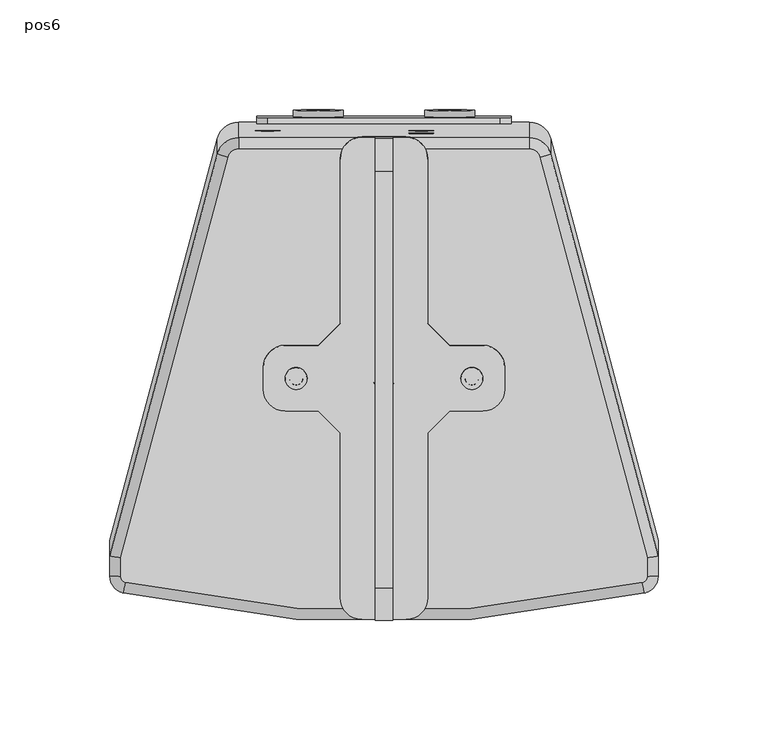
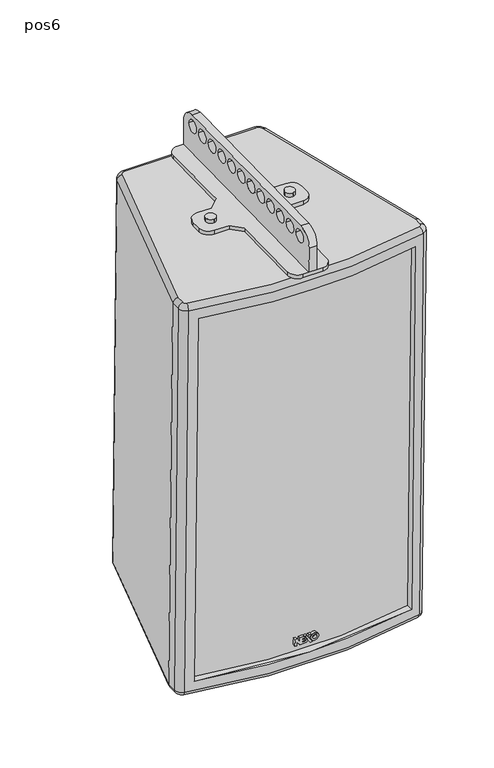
"""IFC4 building model written with IfcOpenShell, lengths in millimetres: proxy geometry, ePS8-BUMP-CVM : pos6."""

from ifc_helpers import new_model, si_unit, point, frame, frame_2d, origin, place, context, project, spatial, polyline, circle_curve, ellipse_curve, trimmed, segment, composite_curve, outline, extrude, source, transform, mapped, element, save
from ifc_brep_helpers import plane_surface, cylinder_surface, revolved_surface, advanced_brep


def pos6_5199c8cc(model_context):
    return source(origin(), model_context, "Body", "SolidModel", [
        extrude(outline(composite_curve([segment(trimmed(circle_curve(frame_2d((0.0, -5.0)), 5.0), [point((0.0, -10.0))], [point((0.0, 0.0))], False, "CARTESIAN"), True, "CONTINUOUS"), segment(trimmed(circle_curve(frame_2d((0.0, -5.0)), 5.0), [point((0.0, 0.0))], [point((0.0, -10.0))], False, "CARTESIAN"), True, "CONTINUOUS")], self_intersect=False)), frame((-35.0511607, 8.5308202, -85.8555115), z_axis=(0.0, -0.017452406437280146, 0.9998476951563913), x_axis=(0.0, -0.9998476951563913, -0.017452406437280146)), (0.0, 0.0, 1.0), 4.0),
        extrude(outline(composite_curve([segment(trimmed(circle_curve(frame_2d((0.0, 75.1023214)), 5.0), [point((0.0, 80.1023214))], [point((0.0, 70.1023214))], False, "CARTESIAN"), True, "CONTINUOUS"), segment(trimmed(circle_curve(frame_2d((0.0, 75.1023214)), 5.0), [point((0.0, 70.1023214))], [point((0.0, 80.1023214))], False, "CARTESIAN"), True, "CONTINUOUS")], self_intersect=False)), frame((-35.0511607, 8.5308202, -85.8555115), z_axis=(0.0, -0.017452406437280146, 0.9998476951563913), x_axis=(0.0, -0.9998476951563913, -0.017452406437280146)), (0.0, 0.0, 1.0), 4.0),
        extrude(outline(composite_curve([segment(trimmed(circle_curve(frame_2d((103.0625887, -58.2014928)), 15.0), [point((102.8008026, -43.2037774))], [point((118.0603041, -57.9397067))], False, "CARTESIAN"), True, "CONTINUOUS"), segment(polyline([(118.0603041, -57.9397067), (118.5140667, -83.9357468), (-101.4524262, -87.7752762), (-101.9061888, -61.7792361)]), True, "CONTINUOUS"), segment(trimmed(circle_curve(frame_2d((-86.9084734, -61.51745)), 15.0), [point((-101.9061888, -61.7792361))], [point((-87.1702595, -46.5197346))], False, "CARTESIAN"), True, "CONTINUOUS"), segment(polyline([(-87.1702595, -46.5197346), (102.8008026, -43.2037774)]), True, "CONTINUOUS")], self_intersect=False), holes=[composite_curve([segment(trimmed(circle_curve(frame_2d((0.0, -57.0)), 6.5), [point((-6.49901, -57.1134406))], [point((6.49901, -56.8865594))], True, "CARTESIAN"), True, "CONTINUOUS"), segment(trimmed(circle_curve(frame_2d((0.0, -57.0)), 6.5), [point((6.49901, -56.8865594))], [point((-6.49901, -57.1134406))], True, "CARTESIAN"), True, "CONTINUOUS")], self_intersect=False), composite_curve([segment(trimmed(circle_curve(frame_2d((-17.0755239, -57.2980544)), 6.5), [point((-23.5745339, -57.411495))], [point((-10.5765139, -57.1846137))], True, "CARTESIAN"), True, "CONTINUOUS"), segment(trimmed(circle_curve(frame_2d((-17.0755239, -57.2980544)), 6.5), [point((-10.5765139, -57.1846137))], [point((-23.5745339, -57.411495))], True, "CARTESIAN"), True, "CONTINUOUS")], self_intersect=False), composite_curve([segment(trimmed(circle_curve(frame_2d((-34.1510478, -57.5961088)), 6.5), [point((-40.6500579, -57.7095494))], [point((-27.6520378, -57.4826681))], True, "CARTESIAN"), True, "CONTINUOUS"), segment(trimmed(circle_curve(frame_2d((-34.1510478, -57.5961088)), 6.5), [point((-27.6520378, -57.4826681))], [point((-40.6500579, -57.7095494))], True, "CARTESIAN"), True, "CONTINUOUS")], self_intersect=False), composite_curve([segment(trimmed(circle_curve(frame_2d((-51.2265718, -57.8941631)), 6.5), [point((-57.7255818, -58.0076038))], [point((-44.7275617, -57.7807225))], True, "CARTESIAN"), True, "CONTINUOUS"), segment(trimmed(circle_curve(frame_2d((-51.2265718, -57.8941631)), 6.5), [point((-44.7275617, -57.7807225))], [point((-57.7255818, -58.0076038))], True, "CARTESIAN"), True, "CONTINUOUS")], self_intersect=False), composite_curve([segment(trimmed(circle_curve(frame_2d((-68.3020957, -58.1922175)), 6.5), [point((-74.8011057, -58.3056582))], [point((-61.8030857, -58.0787769))], True, "CARTESIAN"), True, "CONTINUOUS"), segment(trimmed(circle_curve(frame_2d((-68.3020957, -58.1922175)), 6.5), [point((-61.8030857, -58.0787769))], [point((-74.8011057, -58.3056582))], True, "CARTESIAN"), True, "CONTINUOUS")], self_intersect=False), composite_curve([segment(trimmed(circle_curve(frame_2d((-85.3776196, -58.4902719)), 6.5), [point((-91.8766296, -58.6037125))], [point((-78.8786096, -58.3768313))], True, "CARTESIAN"), True, "CONTINUOUS"), segment(trimmed(circle_curve(frame_2d((-85.3776196, -58.4902719)), 6.5), [point((-78.8786096, -58.3768313))], [point((-91.8766296, -58.6037125))], True, "CARTESIAN"), True, "CONTINUOUS")], self_intersect=False), composite_curve([segment(trimmed(circle_curve(frame_2d((17.106153, -56.701411)), 6.5), [point((23.605163, -56.5879703))], [point((10.607143, -56.8148516))], True, "CARTESIAN"), True, "CONTINUOUS"), segment(trimmed(circle_curve(frame_2d((17.106153, -56.701411)), 6.5), [point((10.607143, -56.8148516))], [point((23.605163, -56.5879703))], True, "CARTESIAN"), True, "CONTINUOUS")], self_intersect=False), composite_curve([segment(trimmed(circle_curve(frame_2d((34.1816769, -56.4033566)), 6.5), [point((40.6806869, -56.289916))], [point((27.6826669, -56.5167973))], True, "CARTESIAN"), True, "CONTINUOUS"), segment(trimmed(circle_curve(frame_2d((34.1816769, -56.4033566)), 6.5), [point((27.6826669, -56.5167973))], [point((40.6806869, -56.289916))], True, "CARTESIAN"), True, "CONTINUOUS")], self_intersect=False), composite_curve([segment(trimmed(circle_curve(frame_2d((51.2572008, -56.1053022)), 6.5), [point((57.7562108, -55.9918616))], [point((44.7581908, -56.2187429))], True, "CARTESIAN"), True, "CONTINUOUS"), segment(trimmed(circle_curve(frame_2d((51.2572008, -56.1053022)), 6.5), [point((44.7581908, -56.2187429))], [point((57.7562108, -55.9918616))], True, "CARTESIAN"), True, "CONTINUOUS")], self_intersect=False), composite_curve([segment(trimmed(circle_curve(frame_2d((68.3327247, -55.8072479)), 6.5), [point((74.8317348, -55.6938072))], [point((61.8337147, -55.9206885))], True, "CARTESIAN"), True, "CONTINUOUS"), segment(trimmed(circle_curve(frame_2d((68.3327247, -55.8072479)), 6.5), [point((61.8337147, -55.9206885))], [point((74.8317348, -55.6938072))], True, "CARTESIAN"), True, "CONTINUOUS")], self_intersect=False), composite_curve([segment(trimmed(circle_curve(frame_2d((85.4082487, -55.5091935)), 6.5), [point((91.9072587, -55.3957528))], [point((78.9092386, -55.6226341))], True, "CARTESIAN"), True, "CONTINUOUS"), segment(trimmed(circle_curve(frame_2d((85.4082487, -55.5091935)), 6.5), [point((78.9092386, -55.6226341))], [point((91.9072587, -55.3957528))], True, "CARTESIAN"), True, "CONTINUOUS")], self_intersect=False), composite_curve([segment(trimmed(circle_curve(frame_2d((102.4837726, -55.2111391)), 6.5), [point((108.9827826, -55.0976985))], [point((95.9847626, -55.3245797))], True, "CARTESIAN"), True, "CONTINUOUS"), segment(trimmed(circle_curve(frame_2d((102.4837726, -55.2111391)), 6.5), [point((95.9847626, -55.3245797))], [point((108.9827826, -55.0976985))], True, "CARTESIAN"), True, "CONTINUOUS")], self_intersect=False)]), frame((-4.0, 0.0, 0.0), z_axis=(1.0, 0.0, 0.0), x_axis=(0.0, 1.0, 0.0)), (0.0, 0.0, 1.0), 8.0),
        extrude(outline(composite_curve([segment(polyline([(1.6568542, 0.0), (54.6898629, 53.0330086)]), True, "CONTINUOUS"), segment(trimmed(circle_curve(frame_2d((61.7609307, 45.9619408)), 10.0), [point((54.6898629, 53.0330086))], [point((68.8319985, 53.0330086))], False, "CARTESIAN"), True, "CONTINUOUS"), segment(polyline([(68.8319985, 53.0330086), (82.9741341, 38.8908729)]), True, "CONTINUOUS"), segment(trimmed(circle_curve(frame_2d((75.9030663, 31.8198052)), 10.0), [point((82.9741341, 38.8908729))], [point((82.9741341, 24.7487373))], False, "CARTESIAN"), True, "CONTINUOUS"), segment(polyline([(82.9741341, 24.7487373), (29.9411255, -28.2842713), (29.9411255, -42.4264069), (40.5477272, -53.0330086)]), True, "CONTINUOUS"), segment(trimmed(circle_curve(frame_2d((33.4766594, -60.1040764)), 10.0), [point((40.5477272, -53.0330086))], [point((40.5477272, -67.1751443))], False, "CARTESIAN"), True, "CONTINUOUS"), segment(polyline([(40.5477272, -67.1751443), (33.4766594, -74.246212)]), True, "CONTINUOUS"), segment(trimmed(circle_curve(frame_2d((26.4055916, -67.1751442)), 10.0), [point((33.4766594, -74.246212))], [point((19.3345238, -74.2462121))], False, "CARTESIAN"), True, "CONTINUOUS"), segment(polyline([(19.3345238, -74.2462121), (8.7279221, -63.6396103), (-5.4142135, -63.6396103), (-58.4472222, -116.6726189)]), True, "CONTINUOUS"), segment(trimmed(circle_curve(frame_2d((-65.51829, -109.6015511)), 10.0), [point((-58.4472222, -116.6726189))], [point((-72.5893578, -116.6726189))], False, "CARTESIAN"), True, "CONTINUOUS"), segment(polyline([(-72.5893578, -116.6726189), (-86.7314934, -102.5304833)]), True, "CONTINUOUS"), segment(trimmed(circle_curve(frame_2d((-79.6604256, -95.4594155)), 10.0), [point((-86.7314934, -102.5304833))], [point((-86.7314934, -88.3883477))], False, "CARTESIAN"), True, "CONTINUOUS"), segment(polyline([(-86.7314934, -88.3883477), (-33.6984848, -35.3553391), (-33.6984848, -21.2132035), (-44.3050865, -10.6066018)]), True, "CONTINUOUS"), segment(trimmed(circle_curve(frame_2d((-37.2340187, -3.5355339)), 10.0), [point((-44.3050865, -10.6066018))], [point((-44.3050865, 3.5355339))], False, "CARTESIAN"), True, "CONTINUOUS"), segment(polyline([(-44.3050865, 3.5355339), (-37.2340187, 10.6066017)]), True, "CONTINUOUS"), segment(trimmed(circle_curve(frame_2d((-30.1629509, 3.5355339)), 10.0), [point((-37.2340187, 10.6066017))], [point((-23.0918831, 10.6066017))], False, "CARTESIAN"), True, "CONTINUOUS"), segment(polyline([(-23.0918831, 10.6066017), (-12.4852813, 0.0), (1.6568542, 0.0)]), True, "CONTINUOUS")], self_intersect=False), holes=[composite_curve([segment(trimmed(circle_curve(frame_2d((-30.1702094, -3.5282754)), 3.0), [point((-32.2915297, -1.406955))], [point((-28.048889, -5.6495957))], True, "CARTESIAN"), True, "CONTINUOUS"), segment(trimmed(circle_curve(frame_2d((-30.1702094, -3.5282754)), 3.0), [point((-28.048889, -5.6495957))], [point((-32.2915297, -1.406955))], True, "CARTESIAN"), True, "CONTINUOUS")], self_intersect=False), composite_curve([segment(trimmed(circle_curve(frame_2d((26.4128502, -60.1113349)), 3.0), [point((28.5341705, -62.2326553))], [point((24.2915298, -57.9900146))], True, "CARTESIAN"), True, "CONTINUOUS"), segment(trimmed(circle_curve(frame_2d((26.4128502, -60.1113349)), 3.0), [point((24.2915298, -57.9900146))], [point((28.5341705, -62.2326553))], True, "CARTESIAN"), True, "CONTINUOUS")], self_intersect=False)]), frame((-21.1715729, 32.4254278, -89.4390389), z_axis=(0.0, -0.017452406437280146, 0.9998476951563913), x_axis=(0.7071067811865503, 0.7069990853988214, 0.012340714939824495)), (0.0, 0.0, 1.0), 4.0),
        extrude(outline(composite_curve([segment(trimmed(circle_curve(frame_2d((3.670838, -20.0113735)), 3.9406238), [point((3.670838, -16.0707497))], [point((3.670838, -23.9519974))], False, "CARTESIAN"), True, "CONTINUOUS"), segment(trimmed(circle_curve(frame_2d((3.670838, -20.0113735)), 3.9406238), [point((3.670838, -23.9519974))], [point((3.670838, -16.0707497))], False, "CARTESIAN"), True, "CONTINUOUS")], self_intersect=False), holes=[composite_curve([segment(trimmed(circle_curve(frame_2d((3.670838, -20.0113735)), 2.0681078), [point((3.670838, -17.9432657))], [point((3.670838, -22.0794813))], True, "CARTESIAN"), True, "CONTINUOUS"), segment(trimmed(circle_curve(frame_2d((3.670838, -20.0113735)), 2.0681078), [point((3.670838, -22.0794813))], [point((3.670838, -17.9432657))], True, "CARTESIAN"), True, "CONTINUOUS")], self_intersect=False)]), frame((-11.9363528, -91.0145971, -485.2126957), z_axis=(0.0, 0.9998476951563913, 0.017452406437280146), x_axis=(0.0, 0.017452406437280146, -0.9998476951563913)), (0.0, 0.0, 1.0), 3.0),
        extrude(outline(polyline([(0.0, 0.0), (7.279767, 0.0), (7.279767, -1.8923673), (3.1144368, -1.8923673), (7.279767, -4.6674642), (7.279767, -11.5183739), (5.404796, -12.8369462), (3.8052626, -11.7735691), (5.6771027, -10.4040265), (5.6771027, -7.3703972), (4.4228153, -7.3703972), (4.4228153, -9.6535101), (2.820085, -9.6535101), (2.820085, -7.3703972), (1.6035818, -7.3703972), (1.6035818, -9.7774719), (0.8035818, -9.7774719), (0.0008515, -9.2438132), (0.0008515, -4.9754371), (4.4509076, -4.9657455), (0.0, -2.0264794), (0.0, 0.0)])), frame((-11.9363528, -91.0145971, -485.2126957), z_axis=(0.0, 0.9998476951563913, 0.017452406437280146), x_axis=(0.0, 0.017452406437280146, -0.9998476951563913)), (0.0, 0.0, 1.0), 3.0),
        extrude(outline(polyline([(0.0, -9.8851283), (8.2409469, -15.3637475), (8.2409469, -17.5569502), (0.0, -12.078331), (0.0, -9.8851283)])), frame((-11.9363528, -91.0145971, -485.2126957), z_axis=(0.0, 0.9998476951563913, 0.017452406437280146), x_axis=(0.0, 0.017452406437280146, -0.9998476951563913)), (0.0, 0.0, 1.0), 3.0),
        extrude(outline(polyline([(0.0, -16.6257623), (0.0, -14.2989718), (1.267957, -13.5511775), (2.8988509, -14.6354032), (0.0, -16.6257623)])), frame((-11.9363528, -91.0145971, -485.2126957), z_axis=(0.0, 0.9998476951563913, 0.017452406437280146), x_axis=(0.0, 0.017452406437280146, -0.9998476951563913)), (0.0, 0.0, 1.0), 3.0),
        extrude(outline(composite_curve([segment(trimmed(circle_curve(frame_2d((0.0, -55.0)), 11.4515227), [point((0.0, -43.5484773))], [point((0.0, -66.4515227))], False, "CARTESIAN"), True, "CONTINUOUS"), segment(trimmed(circle_curve(frame_2d((0.0, -55.0)), 11.4515227), [point((0.0, -66.4515227))], [point((0.0, -43.5484773))], False, "CARTESIAN"), True, "CONTINUOUS")], self_intersect=False), holes=[composite_curve([segment(trimmed(circle_curve(frame_2d((0.0, -55.0)), 5.0), [point((0.0, -50.0))], [point((0.0, -60.0))], True, "CARTESIAN"), True, "CONTINUOUS"), segment(trimmed(circle_curve(frame_2d((0.0, -55.0)), 5.0), [point((0.0, -60.0))], [point((0.0, -50.0))], True, "CARTESIAN"), True, "CONTINUOUS")], self_intersect=False)]), frame((25.0, 127.8113982, -473.332793), z_axis=(0.0, 0.9998476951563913, 0.017452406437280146), x_axis=(0.0, -0.017452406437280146, 0.9998476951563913)), (0.0, 0.0, 1.0), 3.0),
        extrude(outline(composite_curve([segment(trimmed(circle_curve(frame_2d((0.0, 5.0)), 11.4515227), [point((0.0, 16.4515227))], [point((0.0, -6.4515227))], False, "CARTESIAN"), True, "CONTINUOUS"), segment(trimmed(circle_curve(frame_2d((0.0, 5.0)), 11.4515227), [point((0.0, -6.4515227))], [point((0.0, 16.4515227))], False, "CARTESIAN"), True, "CONTINUOUS")], self_intersect=False), holes=[composite_curve([segment(trimmed(circle_curve(frame_2d((0.0, 5.0)), 5.0), [point((0.0, 10.0))], [point((0.0, 0.0))], True, "CARTESIAN"), True, "CONTINUOUS"), segment(trimmed(circle_curve(frame_2d((0.0, 5.0)), 5.0), [point((0.0, 0.0))], [point((0.0, 10.0))], True, "CARTESIAN"), True, "CONTINUOUS")], self_intersect=False)]), frame((25.0, 127.8113982, -473.332793), z_axis=(0.0, 0.9998476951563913, 0.017452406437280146), x_axis=(0.0, -0.017452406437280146, 0.9998476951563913)), (0.0, 0.0, 1.0), 3.0),
        extrude(outline(composite_curve([segment(polyline([(-5.0, -5.0), (-5.0, 101.0)]), True, "CONTINUOUS"), segment(trimmed(circle_curve(frame_2d((0.0, 101.0)), 5.0), [point((-5.0, 101.0))], [point((0.0, 106.0))], False, "CARTESIAN"), True, "CONTINUOUS"), segment(polyline([(0.0, 106.0), (28.0, 106.0)]), True, "CONTINUOUS"), segment(trimmed(circle_curve(frame_2d((28.0, 101.0)), 5.0), [point((28.0, 106.0))], [point((33.0000001, 101.0))], False, "CARTESIAN"), True, "CONTINUOUS"), segment(polyline([(33.0000001, 101.0), (33.0000001, -5.0)]), True, "CONTINUOUS"), segment(trimmed(circle_curve(frame_2d((28.0, -5.0)), 5.0), [point((33.0000001, -5.0))], [point((28.0, -10.0))], False, "CARTESIAN"), True, "CONTINUOUS"), segment(polyline([(28.0, -10.0), (0.0, -10.0)]), True, "CONTINUOUS"), segment(trimmed(circle_curve(frame_2d((0.0, -5.0)), 5.0), [point((0.0, -10.0))], [point((-5.0, -5.0))], False, "CARTESIAN"), True, "CONTINUOUS")], self_intersect=False)), frame((48.0, 124.5675215, -459.3872825), z_axis=(0.0, 0.9998476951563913, 0.017452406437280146), x_axis=(0.0, 0.017452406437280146, -0.9998476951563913)), (0.0, 0.0, 1.0), 3.0),
        advanced_brep(
        [(110.0, -91.1865126, -106.5989782), (110.0, -84.3371543, -106.4794223), (110.0, -77.4783586, -499.4195664), (110.0, -84.3277168, -499.5391224), (-71.0680005, 109.3793737, -88.0958028), (-120.0, -73.2095211, -91.2829038), (-120.0, -81.715088, -91.431369), (-117.6705435, -84.6387445, -91.4824016), (117.6705435, -84.6387445, -91.4824016), (120.0, -81.715088, -91.431369), (120.0, -73.2095211, -91.2829038), (71.0680005, 109.3793737, -88.0958028), (66.2383714, 113.084714, -88.0311258), (-66.2383714, 113.084714, -88.0311258), (0.0, 3.6013914, -89.9421643), (0.0, 13.5998683, -89.7676402), (-40.0, 3.6013914, -89.9421643), (-40.0, 13.5998683, -89.7676402), (40.0, 3.6013914, -89.9421643), (40.0, 13.5998683, -89.7676402), (-120.0, -65.8271532, -514.2184788), (-71.0680005, 116.7617416, -511.0313778), (-66.2383714, 120.4670819, -510.9667009), (66.2383714, 120.4670819, -510.9667009), (71.0680005, 116.7617416, -511.0313778), (120.0, -65.8271532, -514.2184788), (120.0, -74.3327201, -514.366944), (117.6705435, -77.2563765, -514.4179767), (-117.6705435, -77.2563765, -514.4179767), (-120.0, -74.3327201, -514.366944), (0.0, 20.9822363, -512.7032153), (0.0, 10.9837593, -512.8777394), (-40.0, 20.9822363, -512.7032153), (-40.0, 10.9837593, -512.8777394), (40.0, 20.9822363, -512.7032153), (40.0, 10.9837593, -512.8777394), (-66.2383714, 118.1712145, -92.9431022), (66.2383714, 118.1712145, -92.9431022), (66.2383714, 125.3790584, -505.8802003), (-66.2383714, 125.3790584, -505.8802003), (-47.3432823, 121.4260132, -279.4103962), (-58.6566026, 121.4260132, -279.4103962), (22.6567177, 121.4260132, -279.4103962), (11.3433974, 121.4260132, -279.4103962), (22.6567177, 120.2043448, -209.4210575), (11.3433974, 120.2043448, -209.4210575), (118.788116, -89.4242432, -96.5666944), (-118.788116, -89.4242432, -96.5666944), (-118.788116, -82.2163993, -509.5037924), (118.788116, -82.2163993, -509.5037925), (-110.0, -91.1865126, -106.5989782), (-110.0, -84.3277168, -499.5391224), (125.0, -81.627826, -96.4306075), (125.0, -74.4199821, -509.3677056), (125.0, -72.4640969, -96.270654), (125.0, -65.256253, -509.2077521), (75.8976296, 110.7605338, -93.0724562), (75.8976296, 117.9683777, -506.0095543), (-75.8976296, 110.7605338, -93.0724562), (-75.8976296, 117.9683777, -506.0095543), (-125.0, -72.4640969, -96.270654), (-125.0, -65.256253, -509.2077521), (-125.0, -81.627826, -96.4306075), (-125.0, -74.4199821, -509.3677056), (0.0, 13.6522256, -92.7671833), (0.0, 3.6537486, -92.9417074), (-40.0, 13.6522256, -92.7671833), (-40.0, 3.6537486, -92.9417074), (40.0, 13.6522256, -92.7671833), (40.0, 3.6537486, -92.9417074), (-110.0, -84.4468053, -106.4813362), (-110.0, -77.5880096, -499.4214804), (0.0, 20.929879, -509.7036722), (0.0, 10.9314021, -509.8781963), (-40.0, 20.929879, -509.7036722), (-40.0, 10.9314021, -509.8781963), (40.0, 20.929879, -509.7036722), (40.0, 10.9314021, -509.8781963), (-47.3432823, 118.4264701, -279.4627534), (-58.6566026, 118.4264701, -279.4627534), (22.6567177, 118.4264701, -279.4627534), (11.3433974, 118.4264701, -279.4627534), (22.6567177, 117.2048017, -209.4734147), (11.3433974, 117.2048017, -209.4734147)],
        [
            (0, 1),
            (1, 2),
            (2, 3),
            (3, 0),
            (4, 5),
            (5, 6),
            (6, 7, circle_curve(frame((-117.0, -81.715088, -91.431369), z_axis=(0.0, -0.017452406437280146, 0.9998476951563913), x_axis=(-0.22351449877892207, -0.9745521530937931, -0.017010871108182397)), 3.0)),
            (7, 8, circle_curve(frame((0.0, 428.42006, -82.5269269), z_axis=(0.0, -0.017452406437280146, 0.9998476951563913), x_axis=(0.22351449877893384, -0.9745521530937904, -0.0170108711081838)), 526.4559755)),
            (8, 9, circle_curve(frame((117.0, -81.715088, -91.431369), z_axis=(0.0, -0.017452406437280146, 0.9998476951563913), x_axis=(1.0, 0.0, 0.0)), 3.0)),
            (9, 10),
            (10, 11),
            (11, 12, circle_curve(frame((66.2383714, 108.0854755, -88.1183878), z_axis=(0.0, -0.017452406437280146, 0.9998476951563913), x_axis=(0.0, 0.9998476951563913, 0.017452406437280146)), 5.0)),
            (12, 13),
            (13, 4, circle_curve(frame((-66.2383714, 108.0854755, -88.1183878), z_axis=(0.0, -0.017452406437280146, 0.9998476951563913), x_axis=(-0.9659258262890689, 0.25877962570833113, 0.00451701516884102)), 5.0)),
            (14, 15, circle_curve(frame((0.0, 8.6006299, -89.8549023), z_axis=(0.0, 0.017452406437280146, -0.9998476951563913), x_axis=(0.0, -0.9998476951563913, -0.017452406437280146)), 5.0)),
            (15, 14, circle_curve(frame((0.0, 8.6006299, -89.8549023), z_axis=(0.0, 0.017452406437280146, -0.9998476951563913), x_axis=(0.0, -0.9998476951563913, -0.017452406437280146)), 5.0)),
            (16, 17, circle_curve(frame((-40.0, 8.6006299, -89.8549023), z_axis=(0.0, 0.017452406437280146, -0.9998476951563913), x_axis=(0.0, -0.9998476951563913, -0.017452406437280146)), 5.0)),
            (17, 16, circle_curve(frame((-40.0, 8.6006299, -89.8549023), z_axis=(0.0, 0.017452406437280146, -0.9998476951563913), x_axis=(0.0, -0.9998476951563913, -0.017452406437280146)), 5.0)),
            (18, 19, circle_curve(frame((40.0, 8.6006299, -89.8549023), z_axis=(0.0, 0.017452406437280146, -0.9998476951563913), x_axis=(0.0, -0.9998476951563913, -0.017452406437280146)), 5.0)),
            (19, 18, circle_curve(frame((40.0, 8.6006299, -89.8549023), z_axis=(0.0, 0.017452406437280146, -0.9998476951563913), x_axis=(0.0, -0.9998476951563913, -0.017452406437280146)), 5.0)),
            (20, 21),
            (21, 22, circle_curve(frame((-66.2383714, 115.4678435, -511.0539629), z_axis=(0.0, 0.017452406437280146, -0.9998476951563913), x_axis=(-0.9659258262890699, 0.2587796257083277, 0.00451701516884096)), 5.0)),
            (22, 23),
            (23, 24, circle_curve(frame((66.2383714, 115.4678435, -511.0539629), z_axis=(0.0, 0.017452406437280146, -0.9998476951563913), x_axis=(0.0, 0.9998476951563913, 0.017452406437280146)), 5.0)),
            (24, 25),
            (25, 26),
            (26, 27, circle_curve(frame((117.0, -74.3327201, -514.366944), z_axis=(0.0, 0.017452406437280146, -0.9998476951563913), x_axis=(1.0, 0.0, 0.0)), 3.0)),
            (27, 28, circle_curve(frame((0.0, 435.8024279, -505.4625019), z_axis=(0.0, 0.017452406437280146, -0.9998476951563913), x_axis=(0.22351449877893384, -0.9745521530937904, -0.0170108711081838)), 526.4559755)),
            (28, 29, circle_curve(frame((-117.0, -74.3327201, -514.366944), z_axis=(0.0, 0.017452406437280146, -0.9998476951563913), x_axis=(-0.22351449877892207, -0.9745521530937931, -0.017010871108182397)), 3.0)),
            (29, 20),
            (30, 31, circle_curve(frame((0.0, 15.9829978, -512.7904773), z_axis=(0.0, -0.017452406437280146, 0.9998476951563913), x_axis=(0.0, -0.9998476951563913, -0.017452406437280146)), 5.0)),
            (31, 30, circle_curve(frame((0.0, 15.9829978, -512.7904773), z_axis=(0.0, -0.017452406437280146, 0.9998476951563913), x_axis=(0.0, -0.9998476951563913, -0.017452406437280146)), 5.0)),
            (32, 33, circle_curve(frame((-40.0, 15.9829978, -512.7904773), z_axis=(0.0, -0.017452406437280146, 0.9998476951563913), x_axis=(0.0, -0.9998476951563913, -0.017452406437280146)), 5.0)),
            (33, 32, circle_curve(frame((-40.0, 15.9829978, -512.7904773), z_axis=(0.0, -0.017452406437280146, 0.9998476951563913), x_axis=(0.0, -0.9998476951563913, -0.017452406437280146)), 5.0)),
            (34, 35, circle_curve(frame((40.0, 15.9829978, -512.7904773), z_axis=(0.0, -0.017452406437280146, 0.9998476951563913), x_axis=(0.0, -0.9998476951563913, -0.017452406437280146)), 5.0)),
            (35, 34, circle_curve(frame((40.0, 15.9829978, -512.7904773), z_axis=(0.0, -0.017452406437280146, 0.9998476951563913), x_axis=(0.0, -0.9998476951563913, -0.017452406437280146)), 5.0)),
            (36, 37),
            (37, 38),
            (38, 39),
            (39, 36),
            (40, 41, circle_curve(frame((-52.9999424, 121.4260132, -279.4103962), z_axis=(0.0, -0.9998476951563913, -0.017452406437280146), x_axis=(-1.0, 0.0, 0.0)), 5.6566602)),
            (41, 40, circle_curve(frame((-52.9999424, 121.4260132, -279.4103962), z_axis=(0.0, -0.9998476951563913, -0.017452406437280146), x_axis=(-1.0, 0.0, 0.0)), 5.6566602)),
            (42, 43, circle_curve(frame((17.0000576, 121.4260132, -279.4103962), z_axis=(0.0, -0.9998476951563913, -0.017452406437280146), x_axis=(-1.0, 0.0, 0.0)), 5.6566602)),
            (43, 42, circle_curve(frame((17.0000576, 121.4260132, -279.4103962), z_axis=(0.0, -0.9998476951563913, -0.017452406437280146), x_axis=(-1.0, 0.0, 0.0)), 5.6566602)),
            (44, 45, circle_curve(frame((17.0000576, 120.2043448, -209.4210575), z_axis=(0.0, -0.9998476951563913, -0.017452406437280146), x_axis=(-1.0, 0.0, 0.0)), 5.6566602)),
            (45, 44, circle_curve(frame((17.0000576, 120.2043448, -209.4210575), z_axis=(0.0, -0.9998476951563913, -0.017452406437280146), x_axis=(-1.0, 0.0, 0.0)), 5.6566602)),
            (46, 47, circle_curve(frame((0.0, 428.507322, -87.5261653), z_axis=(0.0, 0.017452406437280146, -0.9998476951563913), x_axis=(1.0, 0.0, 0.0)), 531.4559755)),
            (47, 48),
            (48, 49, circle_curve(frame((0.0, 435.7151659, -500.4632634), z_axis=(0.0, -0.017452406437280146, 0.9998476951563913), x_axis=(1.0, 0.0, 0.0)), 531.4559755)),
            (49, 46),
            (50, 0, circle_curve(frame((0.0, 428.6818461, -97.5246423), z_axis=(0.0, -0.017452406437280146, 0.9998476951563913), x_axis=(1.0, 0.0, 0.0)), 531.4559755)),
            (3, 51, circle_curve(frame((0.0, 435.5406418, -490.4647865), z_axis=(0.0, 0.017452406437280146, -0.9998476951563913), x_axis=(1.0, 0.0, 0.0)), 531.4559755)),
            (51, 50),
            (52, 46, circle_curve(frame((117.0, -81.627826, -96.4306075), z_axis=(0.0, 0.017452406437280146, -0.9998476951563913), x_axis=(1.0, 0.0, 0.0)), 8.0)),
            (49, 53, circle_curve(frame((117.0, -74.4199821, -509.3677056), z_axis=(0.0, -0.017452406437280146, 0.9998476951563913), x_axis=(1.0, 0.0, 0.0)), 8.0)),
            (53, 52),
            (54, 52),
            (53, 55),
            (55, 54),
            (56, 54),
            (55, 57),
            (57, 56),
            (37, 56, circle_curve(frame((66.2383714, 108.1727376, -93.1176263), z_axis=(0.0, 0.017452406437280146, -0.9998476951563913), x_axis=(1.0, 0.0, 0.0)), 10.0)),
            (57, 38, circle_curve(frame((66.2383714, 115.3805814, -506.0547244), z_axis=(0.0, -0.017452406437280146, 0.9998476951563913), x_axis=(1.0, 0.0, 0.0)), 10.0)),
            (58, 36, circle_curve(frame((-66.2383714, 108.1727376, -93.1176263), z_axis=(0.0, 0.017452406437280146, -0.9998476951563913), x_axis=(1.0, 0.0, 0.0)), 10.0)),
            (39, 59, circle_curve(frame((-66.2383714, 115.3805814, -506.0547244), z_axis=(0.0, -0.017452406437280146, 0.9998476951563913), x_axis=(1.0, 0.0, 0.0)), 10.0)),
            (59, 58),
            (60, 58),
            (59, 61),
            (61, 60),
            (62, 60),
            (61, 63),
            (63, 62),
            (47, 62, circle_curve(frame((-117.0, -81.627826, -96.4306075), z_axis=(0.0, 0.017452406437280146, -0.9998476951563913), x_axis=(1.0, 0.0, 0.0)), 8.0)),
            (63, 48, circle_curve(frame((-117.0, -74.4199821, -509.3677056), z_axis=(0.0, -0.017452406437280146, 0.9998476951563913), x_axis=(1.0, 0.0, 0.0)), 8.0)),
            (64, 65, circle_curve(frame((0.0, 8.6529871, -92.8544454), z_axis=(0.0, -0.017452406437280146, 0.9998476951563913), x_axis=(0.0, -0.9998476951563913, -0.017452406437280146)), 5.0)),
            (65, 64, circle_curve(frame((0.0, 8.6529871, -92.8544454), z_axis=(0.0, -0.017452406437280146, 0.9998476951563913), x_axis=(0.0, -0.9998476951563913, -0.017452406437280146)), 5.0)),
            (66, 67, circle_curve(frame((-40.0, 8.6529871, -92.8544454), z_axis=(0.0, -0.017452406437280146, 0.9998476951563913), x_axis=(0.0, -0.9998476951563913, -0.017452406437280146)), 5.0)),
            (67, 66, circle_curve(frame((-40.0, 8.6529871, -92.8544454), z_axis=(0.0, -0.017452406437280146, 0.9998476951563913), x_axis=(0.0, -0.9998476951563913, -0.017452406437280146)), 5.0)),
            (68, 69, circle_curve(frame((40.0, 8.6529871, -92.8544454), z_axis=(0.0, -0.017452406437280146, 0.9998476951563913), x_axis=(0.0, -0.9998476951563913, -0.017452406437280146)), 5.0)),
            (69, 68, circle_curve(frame((40.0, 8.6529871, -92.8544454), z_axis=(0.0, -0.017452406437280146, 0.9998476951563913), x_axis=(0.0, -0.9998476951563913, -0.017452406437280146)), 5.0)),
            (64, 15),
            (14, 65),
            (66, 17),
            (16, 67),
            (68, 19),
            (18, 69),
            (50, 70),
            (70, 1, circle_curve(frame((-0.2540909, 425.2521414, -97.584508), z_axis=(0.0, -0.017452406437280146, 0.9998476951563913), x_axis=(1.0, 0.0, 0.0)), 521.4559755)),
            (2, 71, circle_curve(frame((-0.2540909, 432.1109371, -490.5246522), z_axis=(0.0, 0.017452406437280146, -0.9998476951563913), x_axis=(1.0, 0.0, 0.0)), 521.4559755)),
            (71, 51),
            (70, 71),
            (4, 58, circle_curve(frame((-71.0680005, 109.4666357, -93.0950412), z_axis=(-0.25881904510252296, -0.9657787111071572, -0.016857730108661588), x_axis=(-0.9659258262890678, 0.2587796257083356, 0.004517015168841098)), 5.0)),
            (60, 5, ellipse_curve(frame((-120.0, -73.1222591, -96.2821422), z_axis=(0.13052619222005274, 0.9912938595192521, 0.017303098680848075), x_axis=(0.9914448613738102, -0.13050631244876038, -0.002277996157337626)), 5.0431448, 5.0)),
            (13, 36, circle_curve(frame((-66.2383714, 113.171976, -93.0303643), z_axis=(-1.0, 0.0, 0.0), x_axis=(0.0, 0.9998476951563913, 0.017452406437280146)), 5.0)),
            (12, 37, circle_curve(frame((66.2383714, 113.171976, -93.0303643), z_axis=(-1.0, 0.0, 0.0), x_axis=(0.0, 0.9998476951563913, 0.017452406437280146)), 5.0)),
            (11, 56, circle_curve(frame((71.0680005, 109.4666357, -93.0950412), z_axis=(-0.2588190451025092, 0.9657787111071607, 0.016857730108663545), x_axis=(0.9659258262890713, 0.25877962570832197, 0.004517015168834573)), 5.0)),
            (10, 54, ellipse_curve(frame((120.0, -73.1222591, -96.2821422), z_axis=(-0.13052619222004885, 0.9912938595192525, 0.01730309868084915), x_axis=(0.9914448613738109, 0.13050631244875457, 0.0022779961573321)), 5.0431448, 5.0)),
            (62, 6, circle_curve(frame((-120.0, -81.627826, -96.4306075), z_axis=(0.0, 0.9998476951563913, 0.017452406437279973), x_axis=(-1.0, 0.0, 0.0)), 5.0)),
            (9, 52, circle_curve(frame((120.0, -81.627826, -96.4306075), z_axis=(0.0, 0.9998476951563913, 0.01745240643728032), x_axis=(1.0, 0.0, 0.0)), 5.0)),
            (8, 46, circle_curve(frame((117.6705435, -84.5514824, -96.4816401), z_axis=(0.974700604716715, 0.2234804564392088, 0.003900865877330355), x_axis=(0.22351449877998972, -0.9745521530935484, -0.01701087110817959)), 5.0)),
            (7, 47, circle_curve(frame((-117.6705435, -84.5514824, -96.4816401), z_axis=(0.9747006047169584, -0.2234804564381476, -0.0039008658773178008), x_axis=(-0.22351449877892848, -0.9745521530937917, -0.01701087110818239)), 5.0)),
            (59, 21, circle_curve(frame((-71.0680005, 116.6744795, -506.0321393), z_axis=(-0.258819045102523, -0.9657787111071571, -0.016857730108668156), x_axis=(-0.9659258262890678, 0.2587796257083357, 0.004517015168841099)), 5.0)),
            (20, 61, ellipse_curve(frame((-120.0, -65.9144152, -509.2192403), z_axis=(0.13052619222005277, 0.991293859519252, 0.017303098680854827), x_axis=(0.9914448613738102, -0.13050631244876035, -0.002277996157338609)), 5.0431448, 5.0)),
            (39, 22, circle_curve(frame((-66.2383714, 120.3798199, -505.9674624), z_axis=(-1.0, 0.0, 0.0), x_axis=(0.0, 0.9998476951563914, 0.01745240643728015)), 5.0)),
            (38, 23, circle_curve(frame((66.2383714, 120.3798199, -505.9674624), z_axis=(-1.0, 0.0, 0.0), x_axis=(0.0, 0.9998476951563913, 0.017452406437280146)), 5.0)),
            (57, 24, circle_curve(frame((71.0680005, 116.6744795, -506.0321393), z_axis=(-0.25881904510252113, 0.9657787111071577, 0.016857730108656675), x_axis=(0.9659258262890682, 0.2587796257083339, 0.004517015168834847)), 5.0)),
            (55, 25, ellipse_curve(frame((120.0, -65.9144152, -509.2192403), z_axis=(-0.1305261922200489, 0.9912938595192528, 0.0173030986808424), x_axis=(0.9914448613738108, 0.1305063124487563, 0.00227799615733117)), 5.0431448, 5.0)),
            (29, 63, circle_curve(frame((-120.0, -74.4199821, -509.3677056), z_axis=(0.0, 0.9998476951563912, 0.01745240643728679), x_axis=(-1.0, 0.0, 0.0)), 5.0)),
            (53, 26, circle_curve(frame((120.0, -74.4199821, -509.3677056), z_axis=(0.0, 0.9998476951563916, 0.017452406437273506), x_axis=(1.0, 0.0, 0.0)), 5.0)),
            (49, 27, circle_curve(frame((117.6705435, -77.3436386, -509.4187382), z_axis=(0.9747006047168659, 0.2234804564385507, 0.0039008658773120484), x_axis=(0.22351449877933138, -0.9745521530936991, -0.01701087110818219)), 5.0)),
            (48, 28, circle_curve(frame((-117.6705435, -77.3436386, -509.4187382), z_axis=(0.9747006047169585, -0.2234804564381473, -0.003900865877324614), x_axis=(-0.2235144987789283, -0.9745521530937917, -0.01701087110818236)), 5.0)),
            (72, 73, circle_curve(frame((0.0, 15.9306406, -509.7909342), z_axis=(0.0, 0.017452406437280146, -0.9998476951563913), x_axis=(0.0, -0.9998476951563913, -0.017452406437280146)), 5.0)),
            (73, 72, circle_curve(frame((0.0, 15.9306406, -509.7909342), z_axis=(0.0, 0.017452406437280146, -0.9998476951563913), x_axis=(0.0, -0.9998476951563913, -0.017452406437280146)), 5.0)),
            (74, 75, circle_curve(frame((-40.0, 15.9306406, -509.7909342), z_axis=(0.0, 0.017452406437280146, -0.9998476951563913), x_axis=(0.0, -0.9998476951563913, -0.017452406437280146)), 5.0)),
            (75, 74, circle_curve(frame((-40.0, 15.9306406, -509.7909342), z_axis=(0.0, 0.017452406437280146, -0.9998476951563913), x_axis=(0.0, -0.9998476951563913, -0.017452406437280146)), 5.0)),
            (76, 77, circle_curve(frame((40.0, 15.9306406, -509.7909342), z_axis=(0.0, 0.017452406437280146, -0.9998476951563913), x_axis=(0.0, -0.9998476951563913, -0.017452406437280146)), 5.0)),
            (77, 76, circle_curve(frame((40.0, 15.9306406, -509.7909342), z_axis=(0.0, 0.017452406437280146, -0.9998476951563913), x_axis=(0.0, -0.9998476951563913, -0.017452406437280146)), 5.0)),
            (73, 31),
            (30, 72),
            (75, 33),
            (32, 74),
            (77, 35),
            (34, 76),
            (78, 79, circle_curve(frame((-52.9999424, 118.4264701, -279.4627534), z_axis=(0.0, 0.9998476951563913, 0.017452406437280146), x_axis=(-1.0, 0.0, 0.0)), 5.6566602)),
            (79, 78, circle_curve(frame((-52.9999424, 118.4264701, -279.4627534), z_axis=(0.0, 0.9998476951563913, 0.017452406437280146), x_axis=(-1.0, 0.0, 0.0)), 5.6566602)),
            (80, 81, circle_curve(frame((17.0000576, 118.4264701, -279.4627534), z_axis=(0.0, 0.9998476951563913, 0.017452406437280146), x_axis=(-1.0, 0.0, 0.0)), 5.6566602)),
            (81, 80, circle_curve(frame((17.0000576, 118.4264701, -279.4627534), z_axis=(0.0, 0.9998476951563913, 0.017452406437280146), x_axis=(-1.0, 0.0, 0.0)), 5.6566602)),
            (82, 83, circle_curve(frame((17.0000576, 117.2048017, -209.4734147), z_axis=(0.0, 0.9998476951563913, 0.017452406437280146), x_axis=(-1.0, 0.0, 0.0)), 5.6566602)),
            (83, 82, circle_curve(frame((17.0000576, 117.2048017, -209.4734147), z_axis=(0.0, 0.9998476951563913, 0.017452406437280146), x_axis=(-1.0, 0.0, 0.0)), 5.6566602)),
            (79, 41),
            (40, 78),
            (81, 43),
            (42, 80),
            (83, 45),
            (44, 82),
        ],
        [
            plane_surface(frame((110.0, -91.1865126, -106.5989782), z_axis=(-1.0, 0.0, 0.0), x_axis=(0.0, 0.017452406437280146, -0.9998476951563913))),
            plane_surface(frame((125.0, -81.715088, -91.431369), z_axis=(0.0, -0.017452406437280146, 0.9998476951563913), x_axis=(0.0, 0.9998476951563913, 0.017452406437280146))),
            plane_surface(frame((125.0, -74.3327201, -514.366944), z_axis=(0.0, 0.017452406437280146, -0.9998476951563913), x_axis=(0.0, -0.9998476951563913, -0.017452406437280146))),
            plane_surface(frame((66.2383714, 118.0839525, -87.9438638), z_axis=(0.0, 0.9998476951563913, 0.017452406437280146), x_axis=(0.0, 0.017452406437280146, -0.9998476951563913))),
            cylinder_surface(frame((0.0, 435.8024279, -505.4625019), z_axis=(0.0, -0.017452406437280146, 0.9998476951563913), x_axis=(1.0, 0.0, 0.0)), 531.4559755),
            cylinder_surface(frame((117.0, -74.3327201, -514.366944), z_axis=(0.0, -0.017452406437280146, 0.9998476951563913), x_axis=(1.0, 0.0, 0.0)), 8.0),
            plane_surface(frame((125.0, -81.715088, -91.431369), z_axis=(1.0, 0.0, 0.0), x_axis=(0.0, 0.017452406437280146, -0.9998476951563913))),
            plane_surface(frame((125.0, -72.5513589, -91.2714155), z_axis=(0.9659258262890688, 0.2587796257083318, 0.004517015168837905), x_axis=(0.0, 0.017452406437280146, -0.9998476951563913))),
            cylinder_surface(frame((66.2383714, 115.4678435, -511.0539629), z_axis=(0.0, -0.017452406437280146, 0.9998476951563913), x_axis=(1.0, 0.0, 0.0)), 10.0),
            cylinder_surface(frame((-66.2383714, 115.4678435, -511.0539629), z_axis=(0.0, -0.017452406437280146, 0.9998476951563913), x_axis=(1.0, 0.0, 0.0)), 10.0),
            plane_surface(frame((-75.8976296, 110.6732718, -88.0732177), z_axis=(-0.9659258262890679, 0.25877962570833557, 0.004517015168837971), x_axis=(0.0, 0.017452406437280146, -0.9998476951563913))),
            plane_surface(frame((-125.0, -72.5513589, -91.2714155), z_axis=(-1.0, 0.0, 0.0), x_axis=(0.0, 0.017452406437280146, -0.9998476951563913))),
            cylinder_surface(frame((-117.0, -74.3327201, -514.366944), z_axis=(0.0, -0.017452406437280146, 0.9998476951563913), x_axis=(1.0, 0.0, 0.0)), 8.0),
            plane_surface(frame((0.0, 3.6537486, -92.9417074), z_axis=(0.0, -0.017452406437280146, 0.9998476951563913), x_axis=(-1.0, 0.0, 0.0))),
            revolved_surface(polyline([(0.0, 3.6013914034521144, -89.9421642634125), (0.0, 3.6537486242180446, -92.9417074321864)]), (0.0, 8.6529871, -92.8544454), (0.0, -0.017452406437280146, 0.9998476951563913)),
            revolved_surface(polyline([(-40.0, 3.601391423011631, -89.94216426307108), (-40.0, 3.653748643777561, -92.94170743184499)]), (-40.0, 8.6006299, -89.8549023), (0.0, -0.017452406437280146, 0.9998476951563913)),
            revolved_surface(polyline([(40.0, 3.601391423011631, -89.94216426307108), (40.0, 3.653748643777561, -92.94170743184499)]), (40.0, 8.6006299, -89.8549023), (0.0, -0.017452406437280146, 0.9998476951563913)),
            plane_surface(frame((110.0, -148.8734742, -107.6059079), z_axis=(0.0, 0.017452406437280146, -0.9998476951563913), x_axis=(0.0, 0.9998476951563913, 0.017452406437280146))),
            plane_surface(frame((110.0, -142.0146785, -500.5460521), z_axis=(0.0, -0.017452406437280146, 0.9998476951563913), x_axis=(0.0, -0.9998476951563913, -0.017452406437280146))),
            cylinder_surface(frame((-0.2540909, 432.1109371, -490.5246522), z_axis=(0.0, 0.017452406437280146, -0.9998476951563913), x_axis=(1.0, 0.0, 0.0)), 521.4559755),
            plane_surface(frame((-110.0, -84.4468053, -106.4813362), z_axis=(1.0, 0.0, 0.0), x_axis=(0.0, 0.017452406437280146, -0.9998476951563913))),
            cylinder_surface(frame((-120.1703709, -73.757995, -96.2932391), z_axis=(0.25881904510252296, 0.9657787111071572, 0.016857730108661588), x_axis=(-0.9659258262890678, 0.2587796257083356, 0.004517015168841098)), 5.0),
            revolved_surface(trimmed(ellipse_curve(frame((-71.0680005, 109.4666357, -93.0950412), z_axis=(-0.2588190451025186, -0.9657787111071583, -0.01685773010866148), x_axis=(-0.9659258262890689, 0.25877962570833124, 0.004517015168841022)), 5.0, 5.0), [point((-71.0680005, 109.3793737, -88.0958028))], [point((-75.8976296, 110.7605338, -93.0724562))], True, "CARTESIAN"), (-66.2383714, 108.0854755, -88.1183878), (0.0, 0.017452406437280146, -0.9998476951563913)),
            cylinder_surface(frame((-66.2383714, 113.171976, -93.0303643), z_axis=(1.0, 0.0, 0.0), x_axis=(0.0, 0.9998476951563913, 0.017452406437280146)), 5.0),
            revolved_surface(trimmed(ellipse_curve(frame((66.2383714, 113.171976, -93.0303643), z_axis=(-1.0, 0.0, 0.0), x_axis=(0.0, 0.9998476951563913, 0.017452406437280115)), 5.0, 5.0), [point((66.2383714, 113.084714, -88.0311258))], [point((66.2383714, 118.1712145, -92.9431022))], True, "CARTESIAN"), (66.2383714, 108.0854755, -88.1183878), (0.0, 0.017452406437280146, -0.9998476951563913)),
            cylinder_surface(frame((71.0680005, 109.4666357, -93.0950412), z_axis=(0.258819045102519, -0.9657787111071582, -0.01685773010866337), x_axis=(0.9659258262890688, 0.2587796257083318, 0.004517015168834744)), 5.0),
            cylinder_surface(frame((-120.0, -81.627826, -96.4306075), z_axis=(0.0, 0.9998476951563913, 0.017452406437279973), x_axis=(-1.0, 0.0, 0.0)), 5.0),
            cylinder_surface(frame((120.0, -72.4640969, -96.270654), z_axis=(0.0, -0.9998476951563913, -0.01745240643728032), x_axis=(1.0, 0.0, 0.0)), 5.0),
            revolved_surface(trimmed(ellipse_curve(frame((120.0, -81.627826, -96.4306075), z_axis=(0.0, 0.9998476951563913, 0.01745240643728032), x_axis=(1.0, 0.0, 0.0)), 5.0, 5.0), [point((120.0, -81.715088, -91.431369))], [point((125.0, -81.627826, -96.4306075))], True, "CARTESIAN"), (117.0, -81.715088, -91.431369), (0.0, 0.017452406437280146, -0.9998476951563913)),
            revolved_surface(trimmed(ellipse_curve(frame((117.6705435, -84.5514824, -96.4816401), z_axis=(0.9747006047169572, 0.22348045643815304, 0.003900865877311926), x_axis=(0.22351449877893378, -0.9745521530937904, -0.017010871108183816)), 5.0, 5.0), [point((117.6705435, -84.6387445, -91.4824016))], [point((118.788116, -89.4242432, -96.5666944))], True, "CARTESIAN"), (0.0, 428.42006, -82.5269269), (0.0, 0.017452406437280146, -0.9998476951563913)),
            revolved_surface(trimmed(ellipse_curve(frame((-117.6705435, -84.5514824, -96.4816401), z_axis=(0.9747006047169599, -0.22348045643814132, -0.0039008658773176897), x_axis=(-0.22351449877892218, -0.9745521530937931, -0.017010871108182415)), 5.0, 5.0), [point((-117.6705435, -84.6387445, -91.4824016))], [point((-118.788116, -89.4242432, -96.5666944))], True, "CARTESIAN"), (-117.0, -81.715088, -91.431369), (0.0, 0.017452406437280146, -0.9998476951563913)),
            cylinder_surface(frame((-120.1703709, -66.5501511, -509.2303372), z_axis=(0.258819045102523, 0.9657787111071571, 0.016857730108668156), x_axis=(-0.9659258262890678, 0.2587796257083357, 0.004517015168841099)), 5.0),
            revolved_surface(trimmed(ellipse_curve(frame((-71.0680005, 116.6744795, -506.0321393), z_axis=(-0.2588190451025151, -0.9657787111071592, -0.016857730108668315), x_axis=(-0.9659258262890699, 0.25877962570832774, 0.004517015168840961)), 5.0, 5.0), [point((-75.8976296, 117.9683777, -506.0095543))], [point((-71.0680005, 116.7617416, -511.0313778))], True, "CARTESIAN"), (-66.2383714, 115.4678435, -511.0539629), (0.0, 0.017452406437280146, -0.9998476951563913)),
            cylinder_surface(frame((-66.2383714, 120.3798199, -505.9674624), z_axis=(1.0, 0.0, 0.0), x_axis=(0.0, 0.9998476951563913, 0.017452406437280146)), 5.0),
            revolved_surface(trimmed(ellipse_curve(frame((66.2383714, 120.3798199, -505.9674624), z_axis=(-1.0, 0.0, 0.0), x_axis=(0.0, 0.9998476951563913, 0.017452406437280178)), 5.0, 5.0), [point((66.2383714, 125.3790584, -505.8802003))], [point((66.2383714, 120.4670819, -510.9667009))], True, "CARTESIAN"), (66.2383714, 115.4678435, -511.0539629), (0.0, 0.017452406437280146, -0.9998476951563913)),
            cylinder_surface(frame((71.0680005, 116.6744795, -506.0321393), z_axis=(0.2588190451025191, -0.9657787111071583, -0.016857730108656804), x_axis=(0.9659258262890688, 0.25877962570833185, 0.00451701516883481)), 5.0),
            cylinder_surface(frame((-120.0, -74.4199821, -509.3677056), z_axis=(0.0, 0.9998476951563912, 0.01745240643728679), x_axis=(-1.0, 0.0, 0.0)), 5.0),
            cylinder_surface(frame((120.0, -65.256253, -509.2077521), z_axis=(0.0, -0.9998476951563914, -0.017452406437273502), x_axis=(1.0, 0.0, 0.0)), 5.0),
            revolved_surface(trimmed(ellipse_curve(frame((120.0, -74.4199821, -509.3677056), z_axis=(0.0, 0.9998476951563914, 0.017452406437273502), x_axis=(1.0, 0.0, 0.0)), 5.0, 5.0), [point((125.0, -74.4199821, -509.3677056))], [point((120.0, -74.3327201, -514.366944))], True, "CARTESIAN"), (117.0, -74.3327201, -514.366944), (0.0, 0.017452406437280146, -0.9998476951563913)),
            revolved_surface(trimmed(ellipse_curve(frame((117.6705435, -77.3436386, -509.4187382), z_axis=(0.9747006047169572, 0.22348045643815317, 0.0039008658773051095), x_axis=(0.2235144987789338, -0.9745521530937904, -0.01701087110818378)), 5.0, 5.0), [point((118.788116, -82.2163993, -509.5037925))], [point((117.6705435, -77.2563765, -514.4179767))], True, "CARTESIAN"), (0.0, 435.8024279, -505.4625019), (0.0, 0.017452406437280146, -0.9998476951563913)),
            revolved_surface(trimmed(ellipse_curve(frame((-117.6705435, -77.3436386, -509.4187382), z_axis=(0.9747006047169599, -0.22348045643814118, -0.0039008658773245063), x_axis=(-0.22351449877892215, -0.9745521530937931, -0.01701087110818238)), 5.0, 5.0), [point((-118.788116, -82.2163993, -509.5037925))], [point((-117.6705435, -77.2563765, -514.4179767))], True, "CARTESIAN"), (-117.0, -74.3327201, -514.366944), (0.0, 0.017452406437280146, -0.9998476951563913)),
            plane_surface(frame((0.0, 10.9314021, -509.8781963), z_axis=(0.0, 0.017452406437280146, -0.9998476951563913), x_axis=(1.0, 0.0, 0.0))),
            revolved_surface(polyline([(0.0, 10.931402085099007, -509.87819623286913), (0.0, 10.983759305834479, -512.8777393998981)]), (0.0, 16.035355, -515.7900204), (0.0, -0.017452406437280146, 0.9998476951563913)),
            revolved_surface(polyline([(-40.0, 10.931402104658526, -509.8781962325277), (-40.0, 10.983759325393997, -512.8777393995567)]), (-40.0, 15.9829978, -512.7904773), (0.0, -0.017452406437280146, 0.9998476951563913)),
            revolved_surface(polyline([(40.0, 10.931402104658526, -509.8781962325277), (40.0, 10.983759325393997, -512.8777393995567)]), (40.0, 15.9829978, -512.7904773), (0.0, -0.017452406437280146, 0.9998476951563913)),
            plane_surface(frame((-58.6566026, 118.4264701, -279.4627534), z_axis=(0.0, 0.9998476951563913, 0.017452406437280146), x_axis=(0.0, 0.017452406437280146, -0.9998476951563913))),
            revolved_surface(polyline([(-58.6566026, 121.42601319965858, -279.4103961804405), (-58.6566026, 118.4264701, -279.4627534)]), (-52.9999424, 118.4264701, -279.4627534), (0.0, 0.9998476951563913, 0.017452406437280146)),
            revolved_surface(polyline([(11.3433974, 121.4260132, -279.4103962), (11.3433974, 118.42647010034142, -279.4627534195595)]), (17.0000576, 121.4260132, -279.4103962), (0.0, 0.9998476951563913, 0.017452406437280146)),
            revolved_surface(polyline([(11.3433974, 120.2043448, -209.4210575), (11.3433974, 117.20480170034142, -209.4734147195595)]), (17.0000576, 120.2043448, -209.4210575), (0.0, 0.9998476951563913, 0.017452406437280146)),
        ],
        [
            (0, [[1, 2, 3, 4]]),
            (1, [[5, 6, 7, 8, 9, 10, 11, 12, 13, 14], [15, 16], [17, 18], [19, 20]]),
            (2, [[21, 22, 23, 24, 25, 26, 27, 28, 29, 30], [31, 32], [33, 34], [35, 36]]),
            (3, [[37, 38, 39, 40], [41, 42], [43, 44], [45, 46]]),
            (4, [[47, 48, 49, 50], [51, -4, 52, 53]]),
            (5, [[54, -50, 55, 56]]),
            (6, [[57, -56, 58, 59]]),
            (7, [[60, -59, 61, 62]]),
            (8, [[63, -62, 64, -38]]),
            (9, [[65, -40, 66, 67]]),
            (10, [[68, -67, 69, 70]]),
            (11, [[71, -70, 72, 73]]),
            (12, [[74, -73, 75, -48]]),
            (13, [[76, 77]]),
            (13, [[78, 79]]),
            (13, [[80, 81]]),
            (14, [[-76, 82, -15, 83]]),
            (14, [[-77, -83, -16, -82]]),
            (15, [[-78, 84, -17, 85]]),
            (15, [[-79, -85, -18, -84]]),
            (16, [[-80, 86, -19, 87]]),
            (16, [[-81, -87, -20, -86]]),
            (17, [[88, 89, -1, -51]]),
            (18, [[-3, 90, 91, -52]]),
            (19, [[-89, 92, -90, -2]]),
            (20, [[-88, -53, -91, -92]]),
            (21, [[93, -68, 94, -5]]),
            (22, [[-93, -14, 95, -65]]),
            (23, [[-95, -13, 96, -37]]),
            (24, [[-96, -12, 97, -63]]),
            (25, [[-97, -11, 98, -60]]),
            (26, [[-94, -71, 99, -6]]),
            (27, [[-98, -10, 100, -57]]),
            (28, [[-100, -9, 101, -54]]),
            (29, [[-101, -8, 102, -47]]),
            (30, [[-99, -74, -102, -7]]),
            (31, [[103, -21, 104, -69]]),
            (32, [[-103, -66, 105, -22]]),
            (33, [[-105, -39, 106, -23]]),
            (34, [[-106, -64, 107, -24]]),
            (35, [[-107, -61, 108, -25]]),
            (36, [[-104, -30, 109, -72]]),
            (37, [[-108, -58, 110, -26]]),
            (38, [[-110, -55, 111, -27]]),
            (39, [[-111, -49, 112, -28]]),
            (40, [[-109, -29, -112, -75]]),
            (41, [[113, 114]]),
            (41, [[115, 116]]),
            (41, [[117, 118]]),
            (42, [[-114, 119, -31, 120]]),
            (42, [[-113, -120, -32, -119]]),
            (43, [[-116, 121, -33, 122]]),
            (43, [[-115, -122, -34, -121]]),
            (44, [[-118, 123, -35, 124]]),
            (44, [[-117, -124, -36, -123]]),
            (45, [[125, 126]]),
            (45, [[127, 128]]),
            (45, [[129, 130]]),
            (46, [[-126, 131, -41, 132]]),
            (46, [[-125, -132, -42, -131]]),
            (47, [[-128, 133, -43, 134]]),
            (47, [[-127, -134, -44, -133]]),
            (48, [[-130, 135, -45, 136]]),
            (48, [[-129, -136, -46, -135]]),
        ],
    ),
    ])


if __name__ == "__main__":
    model = new_model("IFC4")
    model_context = context("Model", 3, world=origin())
    ifc_project = project(units=[si_unit("LENGTHUNIT", "METRE", prefix="MILLI")], contexts=[model_context])
    site = spatial("IfcSite", under=ifc_project)
    building = spatial("IfcBuilding", under=site)
    placement = place(None, origin())
    pos6_shape = pos6_5199c8cc(model_context)
    element("IfcBuildingElementProxy", 1, Name="ePS8-BUMP-CVM : pos6", ObjectType="ePS8-BUMP-CVM : pos6", at=placement, inside=building, context=model_context, shape_type="MappedRepresentation", body=[
        mapped(pos6_shape, transform((0.0, 0.0, 0.0), x_axis=(1.0, 0.0, 0.0), y_axis=(0.0, 1.0, 0.0), z_axis=(0.0, 0.0, 1.0))),
    ])
    save(model, "model.ifc")
